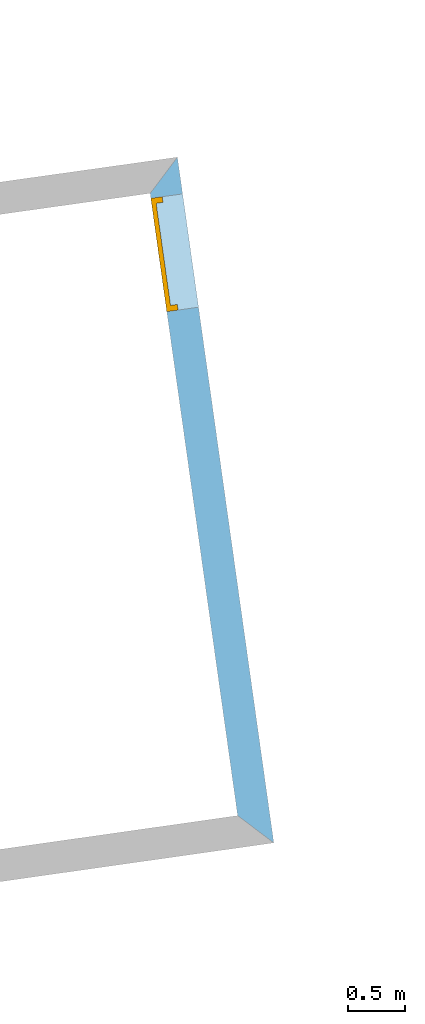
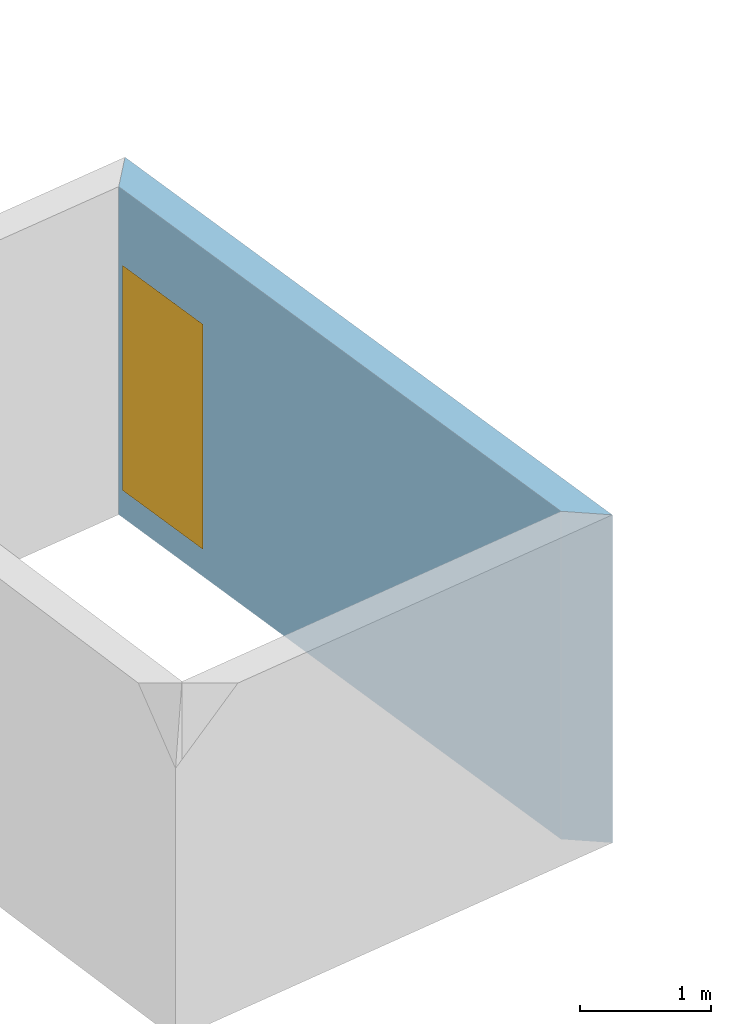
# One storey, part 2 of 2: 1 door, 1 opening, plus 1 element that does not belong to this part.
"""IFC2X3 building model written with IfcOpenShell, lengths in metres."""

from ifc_helpers import new_model, entity, si_unit, converted_unit, money_unit, direction, frame, origin_with_axes, origin_2d_with_axis, place, context, subcontext, project, spatial, polyline, rectangle, outline, extrude, faceted_brep, source, transform, mapped, material, material_list, layer, layer_set, layer_usage, type_object, element, fill, save


model = new_model("IFC2X3")

# Units and contexts
model_context = context("Model", 3, precision=1e-05, world=origin_with_axes(), true_north=direction((0.0, 1.0)))
body_context = subcontext(model_context, "Body", "Model", "MODEL_VIEW")
ifc_project = project(units=[si_unit("LENGTHUNIT", "METRE"), si_unit("AREAUNIT", "SQUARE_METRE"), si_unit("VOLUMEUNIT", "CUBIC_METRE"), converted_unit("PLANEANGLEUNIT", "DEGREE", entity("IfcPlaneAngleMeasure", 0.0174532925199), si_unit("PLANEANGLEUNIT", "RADIAN"), dimensions=[0, 0, 0, 0, 0, 0, 0]), si_unit("SOLIDANGLEUNIT", "STERADIAN"), money_unit("EUR"), converted_unit("TIMEUNIT", "Year", entity("IfcTimeMeasure", 31556926.0), si_unit("TIMEUNIT", "SECOND"), dimensions=[0, 0, 0, 0, 0, 0, 0]), si_unit("MASSUNIT", "GRAM"), si_unit("THERMODYNAMICTEMPERATUREUNIT", "DEGREE_CELSIUS"), si_unit("LUMINOUSINTENSITYUNIT", "LUMEN")], contexts=[model_context])

# Site, building, storey
site_placement = place(None, origin_with_axes())
site = spatial("IfcSite", under=ifc_project, at=site_placement, Name="Undefined", CompositionType="ELEMENT")
building_placement = place(site_placement, origin_with_axes())
building = spatial("IfcBuilding", under=site, at=building_placement, Name="Undefined", CompositionType="ELEMENT")
storey_placement = place(building_placement, frame((0.0, 0.0, 19.35), z_axis=(0.0, 0.0, 1.0), x_axis=(1.0, 0.0, 0.0)))
storey = spatial("IfcBuildingStorey", under=building, at=storey_placement, Name="Etage", CompositionType="ELEMENT", Elevation=19.35)

# Wall, opening, door
ifc_material_1 = material(Name="Finition int - Enduit pl\x89tre")
ifc_layer_1 = layer(ifc_material_1, 0.015, ventilated="UNKNOWN")
ifc_material_2 = material(Name="Struct. - B.A. coul\x8e")
ifc_layer_2 = layer(ifc_material_2, 0.1, ventilated="UNKNOWN")
ifc_material_3 = material(Name="Divers - Vide")
ifc_layer_3 = layer(ifc_material_3, 0.05, ventilated="UNKNOWN")
ifc_layer_4 = layer(ifc_material_2, 0.1, ventilated="UNKNOWN")
ifc_layer_5 = layer(ifc_material_1, 0.015, ventilated="UNKNOWN")
ifc_layer_set = layer_set([ifc_layer_1, ifc_layer_2, ifc_layer_3, ifc_layer_4, ifc_layer_5], Name="3.3-Refend: 2x b\x8eton + vide + enduit pl\x89tre 2 faces")
ifc_layer_usage = layer_usage(ifc_layer_set, "AXIS2", "NEGATIVE", 0.28)
wall_type = type_object("IfcWallType", Name="3.3-Refend: 2x b\x8eton + vide + enduit pl\x89tre 2 faces 280", PredefinedType="NOTDEFINED")
wall_placement = place(storey_placement, frame((3.38291495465, 19.6815315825, -2.19), z_axis=(0.0, 0.0, 1.0), x_axis=(-0.13917321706, 0.990268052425, 0.0)))
wall = element("IfcWallStandardCase", 1, at=wall_placement, inside=storey, type_object=wall_type, material=ifc_layer_usage, Name="WALL_EX_03", ObjectType="WALL", context=body_context, shape_type="SweptSolid", body=[
    extrude(outline(polyline([(0.0, 0.0), (6.04981145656, 0.0), (5.76983434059, 0.28), (0.279613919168, 0.28), (0.0, 0.0)])), origin_with_axes(), (0.0, 0.0, 1.0), 3.06089819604),
])
opening_placement = place(wall_placement, frame((5.22583121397, 0.0, 0.252981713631), z_axis=(0.0, 0.0, 1.0), x_axis=(1.0, 0.0, 0.0)))
opening = element("IfcOpeningElement", 2, at=opening_placement, cuts=wall, Name="DOOR_1000", context=body_context, shape_type="SweptSolid", body=[
    extrude(rectangle(XDim=1.0, YDim=2.1, at=origin_2d_with_axis()), frame((0.0, 0.56, 1.05), z_axis=(0.0, -1.0, 0.0), x_axis=(1.0, 0.0, 0.0)), (0.0, 0.0, 1.0), 0.28),
    extrude(rectangle(XDim=1.0, YDim=2.1, at=origin_2d_with_axis()), frame((0.0, 0.0, 1.05), z_axis=(0.0, 1.0, 0.0), x_axis=(1.0, 0.0, 0.0)), (0.0, 0.0, 1.0), 0.28),
])
ifc_material_4 = material(Name="Background Fill-International")
ifc_material_5 = material(Name="Air Space")
ifc_material_list = material_list([ifc_material_4, ifc_material_5])
door_style = type_object("IfcDoorStyle", Name="IFC Porte - Simple battant", ConstructionType="NOTDEFINED", OperationType="SINGLE_SWING_RIGHT", ParameterTakesPrecedence=True, Sizeable=False)
shared_shape = source(origin_with_axes(), body_context, "Body", "Brep", [
    faceted_brep([(-0.5, 0.0, 0.0), (-0.45, 0.0, 0.0), (-0.45, -0.1, 0.0), (-0.5, -0.1, 0.0), (-0.5, 0.0, 2.1), (0.5, 0.0, 2.1), (0.5, 0.0, 0.0), (0.45, 0.0, 0.0), (0.45, 0.0, 2.05), (-0.45, 0.0, 2.05), (-0.45, -0.1, 2.05), (0.45, -0.1, 2.05), (0.45, -0.1, 0.0), (0.5, -0.1, 0.0), (0.5, -0.1, 2.1), (-0.5, -0.1, 2.1)], [[[0, 1, 2, 3]], [[0, 4, 5, 6, 7, 8, 9, 1]], [[1, 9, 10, 2]], [[3, 2, 10, 11, 12, 13, 14, 15]], [[4, 0, 3, 15]], [[5, 4, 15, 14]], [[6, 5, 14, 13]], [[7, 6, 13, 12]], [[8, 7, 12, 11]], [[9, 8, 11, 10]]]),
    faceted_brep([(0.45, 0.0, 0.0), (0.45, 0.0, 2.05), (0.45, -0.04, 2.05), (0.45, -0.04, 0.0), (-0.45, 0.0, 0.0), (-0.45, 0.0, 2.05), (-0.45, -0.04, 2.05), (-0.45, -0.04, 0.0)], [[[0, 1, 2, 3]], [[0, 4, 5, 1]], [[1, 5, 6, 2]], [[3, 2, 6, 7]], [[4, 0, 3, 7]], [[5, 4, 7, 6]]]),
])
door_placement = place(opening_placement, frame((-0.5, 0.0, 0.0), z_axis=(0.0, 0.0, 1.0), x_axis=(1.0, 0.0, 0.0)))
door = element("IfcDoor", 3, at=door_placement, inside=storey, type_object=door_style, material=ifc_material_list, Name="DOOR_1000", ObjectType="DOOR", OverallHeight=2.1, OverallWidth=1.0, context=body_context, shape_type="MappedRepresentation", body=[
    mapped(shared_shape, transform((0.5, 0.28, 0.0))),
])
fill(opening, door)

save(model, "model.ifc")
